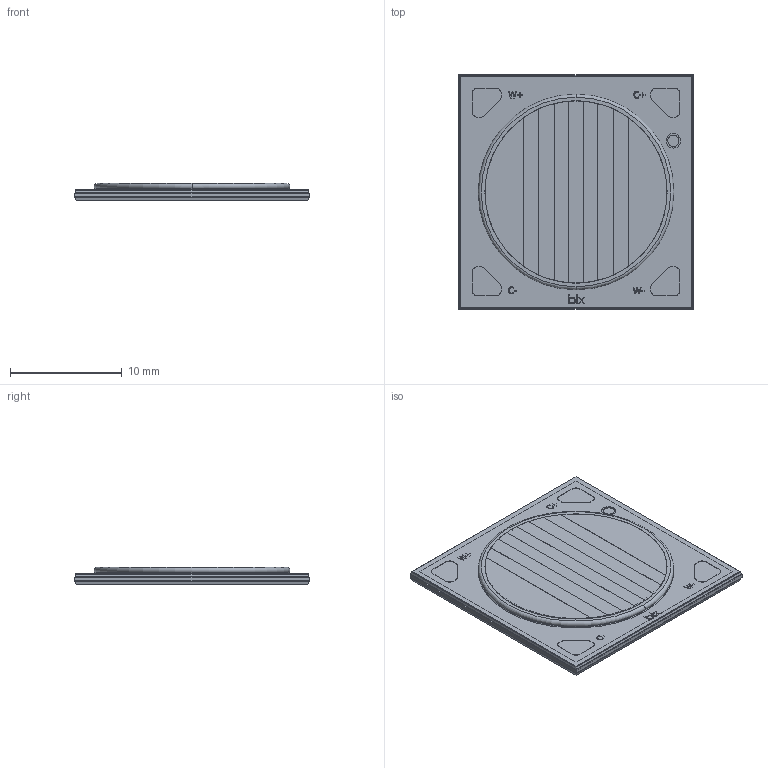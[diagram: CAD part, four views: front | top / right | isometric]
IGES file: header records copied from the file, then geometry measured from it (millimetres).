
Start section: SolidWorks IGES file using analytic representation for surfaces
Global section: file name: C:\Users\michael.solomensky\Desktop\BLX projects\COB\NTW15\DPTW-15.IGS; native system: SolidWorks 2018; preprocessor: SolidWorks 2018; author: michael.solomensky; date: 190328.142014; units: millimetre
Bounding box: 21 x 21 x 1.54 mm (x, y, z)
Volume: 571.6 mm3; surface area: 3964.9 mm2
Topology: 18 solids, 18 shells, 390 faces, 993 edges, 652 vertices
Faces by surface type: plane 240, revolution 110, bspline 40
